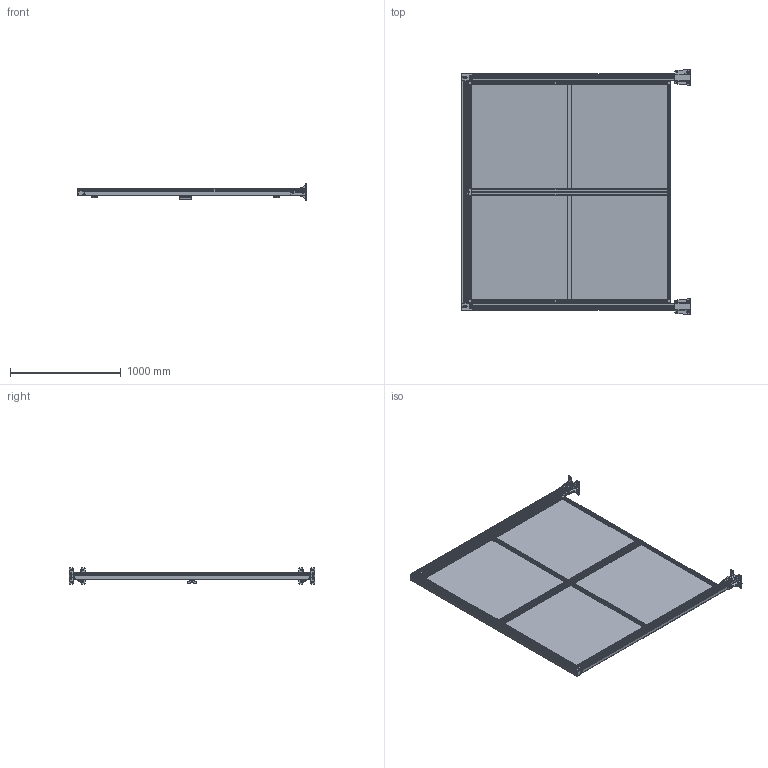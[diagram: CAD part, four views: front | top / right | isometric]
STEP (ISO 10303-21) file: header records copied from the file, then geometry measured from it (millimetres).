
FILE_DESCRIPTION(/* description */ (''),/* implementation_level */ '2;1');
FILE_NAME(/* name */ 'Z:\Marketing\fastline\Porta ad anta doppia H=2000.stp',/* time_stamp */ '2021-10-15T15:02:20+02:00',/* author */ ('mpistoia'),/* organization */ (''),/* preprocessor_version */ 'ST-DEVELOPER v17.2',/* originating_system */ 'Autodesk Inventor 2019',/* authorisation */ '');
FILE_SCHEMA (('AUTOMOTIVE_DESIGN { 1 0 10303 214 3 1 1 }'));
Products named in the file (1): Porta ad anta doppia H=2000
Bounding box: 2063 x 2214.13 x 146.95 mm (x, y, z)
Volume: 18517725.8 mm3; surface area: 14540729.6 mm2
Topology: 7 solids, 22 shells, 4569 faces, 12163 edges, 7654 vertices
Faces by surface type: plane 2735, cylinder 1422, sphere 176, cone 114, torus 62, bspline 60
Full cylindrical faces by diameter (mm): 3.2 x4, 4.5 x6, 6.35 x4, 6.647 x8, 7 x20, 7.5 x16, 8 x24, 8.5 x2, 9.5 x8, 11 x4, 11.63 x8, 13 x16, 13.2 x16, 14 x2, 18 x4, 21 x6
Entity records: 146845 total; most frequent: CARTESIAN_POINT 31265, DIRECTION 24434, ORIENTED_EDGE 24278, EDGE_CURVE 12139, AXIS2_PLACEMENT_3D 8219, LINE 7996, VECTOR 7996, VERTEX_POINT 7654
